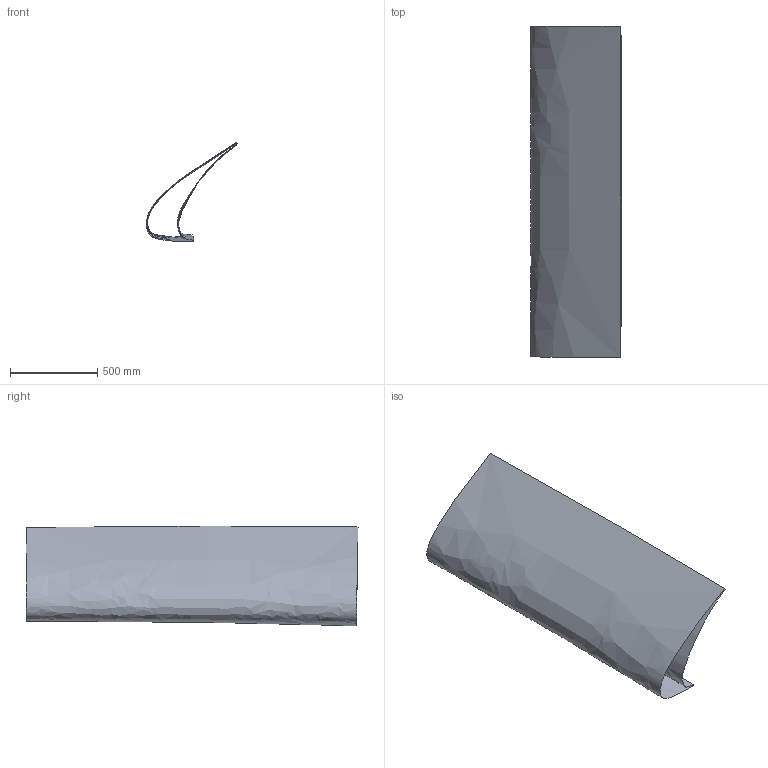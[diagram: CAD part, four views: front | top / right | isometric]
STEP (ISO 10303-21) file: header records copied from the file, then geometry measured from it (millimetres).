
FILE_DESCRIPTION((''),'2;1');
FILE_NAME('','2022-05-11T22:09:13',(''),(''),'','CADfix','');
FILE_SCHEMA(('AUTOMOTIVE_DESIGN { 1 0 10303 214 1 1 1 1 }'));
Length unit declared in the file: inch
Bounding box: 523.88 x 1906.52 x 572.31 mm (x, y, z)
Surface area: 3339463 mm2 (no closed solid volume)
Topology: 0 solids, 0 shells, 2 faces, 8 edges, 8 vertices
Faces by surface type: bspline 2
Entity records: 15873 total; most frequent: CARTESIAN_POINT 15852, B_SPLINE_SURFACE_WITH_KNOTS 2, DIMENSIONAL_EXPONENTS 2, PLANE_ANGLE_MEASURE_WITH_UNIT 1, LENGTH_MEASURE_WITH_UNIT 1, UNCERTAINTY_MEASURE_WITH_UNIT 1, GEOMETRIC_SET 1, GEOMETRICALLY_BOUNDED_SURFACE_SHAPE_REPRESENTATION 1
